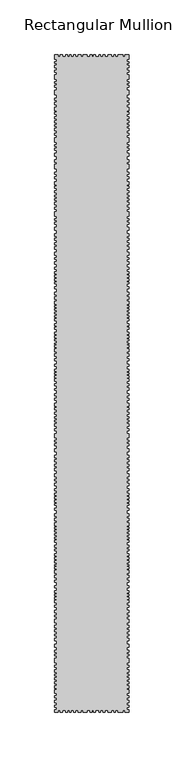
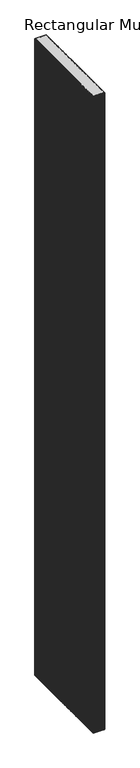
"""IFC4 building model written with IfcOpenShell, lengths in millimetres: member geometry, Rectangular Mullion : DucoSun Cubic Design louvre 600."""

from ifc_helpers import new_model, si_unit, frame, origin, place, context, project, spatial, polyline, outline, extrude, source, transform, mapped, element, save


def rectangular_mullion_efde3910(model_context):
    return source(origin(), model_context, "Body", "SweptSolid", [
        extrude(outline(polyline([(0.0, -597.3782451), (0.0, -600.0), (-3.5455586, -600.0), (-3.5455586, -598.0), (-5.372058, -598.0), (-5.372058, -600.0), (-10.0157006, -600.0), (-10.0157006, -598.0), (-12.1827337, -598.0), (-12.1827337, -600.0), (-13.6996569, -600.0), (-13.6996569, -598.0), (-16.0524358, -598.0), (-16.0524358, -600.0), (-19.1172399, -600.0), (-19.1172399, -598.0), (-21.9034254, -598.0), (-21.9034254, -600.0), (-23.6060943, -600.0), (-23.6060943, -598.0), (-25.9898308, -598.0), (-25.9898308, -600.0), (-27.4757964, -600.0), (-27.4757964, -598.0), (-30.5115322, -598.0), (-30.5115322, -600.0), (-32.2905711, -600.0), (-32.2905711, -598.0), (-34.0, -598.0), (-34.0, -600.0), (-35.8486488, -600.0), (-35.8486488, -598.0), (-38.2128978, -598.0), (-38.2128978, -600.0), (-41.9816511, -600.0), (-41.9816511, -598.0), (-44.0415908, -598.0), (-44.0415908, -600.0), (-46.7335575, -600.0), (-46.7335575, -598.0), (-49.0041729, -598.0), (-49.0041729, -600.0), (-50.8768453, -600.0), (-50.8768453, -598.0), (-52.9367851, -598.0), (-52.9367851, -600.0), (-54.2710642, -600.0), (-54.2710642, -598.0), (-56.3075955, -598.0), (-56.3075955, -600.0), (-57.8993671, -600.0), (-57.8993671, -598.0), (-60.9658683, -598.0), (-60.9658683, -600.0), (-62.9321744, -600.0), (-62.9321744, -598.0), (-64.8750721, -598.0), (-64.8750721, -600.0), (-68.0, -600.0), (-68.0, -597.3782451), (-66.0, -597.3782451), (-66.0, -595.4241521), (-68.0, -595.4241521), (-68.0, -593.6532553), (-66.0, -593.6532553), (-66.0, -590.9460223), (-68.0, -590.9460223), (-68.0, -588.9105087), (-66.0, -588.9105087), (-66.0, -586.7121541), (-68.0, -586.7121541), (-68.0, -585.0023227), (-66.0, -585.0023227), (-66.0, -582.3561551), (-68.0, -582.3561551), (-68.0, -579.3843053), (-66.0, -579.3843053), (-66.0, -577.8917893), (-68.0, -577.8917893), (-68.0, -575.8425117), (-66.0, -575.8425117), (-66.0, -573.8680636), (-68.0, -573.8680636), (-68.0, -572.1582322), (-66.0, -572.1582322), (-66.0, -570.0820083), (-68.0, -570.0820083), (-68.0, -568.3111116), (-66.0, -568.3111116), (-66.0, -566.4995045), (-68.0, -566.4995045), (-68.0, -565.0713495), (-66.0, -565.0713495), (-66.0, -563.4577392), (-68.0, -563.4577392), (-68.0, -561.0328231), (-66.0, -561.0328231), (-66.0, -558.5725067), (-68.0, -558.5725067), (-68.0, -557.0325964), (-66.0, -557.0325964), (-66.0, -554.5014796), (-68.0, -554.5014796), (-68.0, -550.4127524), (-66.0, -550.4127524), (-66.0, -548.4126391), (-68.0, -548.4126391), (-68.0, -546.8373286), (-66.0, -546.8373286), (-66.0, -544.9965163), (-68.0, -544.9965163), (-68.0, -543.3504053), (-66.0, -543.3504053), (-66.0, -540.3767855), (-68.0, -540.3767855), (-68.0, -537.9545244), (-66.0, -537.9545244), (-66.0, -534.5552168), (-68.0, -534.5552168), (-68.0, -532.5197032), (-66.0, -532.5197032), (-66.0, -530.239928), (-68.0, -530.239928), (-68.0, -528.6929377), (-66.0, -528.6929377), (-66.0, -526.4335177), (-68.0, -526.4335177), (-68.0, -524.5608452), (-66.0, -524.5608452), (-66.0, -522.6271073), (-68.0, -522.6271073), (-68.0, -520.5508835), (-66.0, -520.5508835), (-66.0, -518.0064916), (-68.0, -518.0064916), (-68.0, -514.9328661), (-66.0, -514.9328661), (-66.0, -512.9177077), (-68.0, -512.9177077), (-68.0, -511.4114277), (-66.0, -511.4114277), (-66.0, -508.9688114), (-68.0, -508.9688114), (-68.0, -506.7118273), (-66.0, -506.7118273), (-66.0, -503.8852623), (-68.0, -503.8852623), (-68.0, -502.4316003), (-66.0, -502.4316003), (-66.0, -499.9011516), (-68.0, -499.9011516), (-68.0, -497.8552569), (-66.0, -497.8552569), (-66.0, -496.6169522), (-68.0, -496.6169522), (-68.0, -495.0825312), (-66.0, -495.0825312), (-66.0, -493.4673512), (-68.0, -493.4673512), (-68.0, -492.0675286), (-66.0, -492.0675286), (-66.0, -490.5869469), (-68.0, -490.5869469), (-68.0, -489.1602046), (-66.0, -489.1602046), (-66.0, -486.3310055), (-68.0, -486.3310055), (-68.0, -484.2608252), (-66.0, -484.2608252), (-66.0, -481.1919832), (-68.0, -481.1919832), (-68.0, -479.2537672), (-66.0, -479.2537672), (-66.0, -476.9360418), (-68.0, -476.9360418), (-68.0, -475.0004598), (-66.0, -475.0004598), (-66.0, -472.9007258), (-68.0, -472.9007258), (-68.0, -470.1010805), (-66.0, -470.1010805), (-66.0, -468.8089365), (-68.0, -468.8089365), (-68.0, -467.3014351), (-66.0, -467.3014351), (-66.0, -466.0362108), (-68.0, -466.0362108), (-68.0, -465.0401831), (-66.0, -465.0401831), (-66.0, -463.2096458), (-68.0, -463.2096458), (-68.0, -461.6483051), (-66.0, -461.6483051), (-66.0, -460.1408038), (-68.0, -460.1408038), (-68.0, -458.6063828), (-66.0, -458.6063828), (-66.0, -457.0719618), (-68.0, -457.0719618), (-68.0, -455.0799064), (-66.0, -455.0799064), (-66.0, -452.3762692), (-68.0, -452.3762692), (-68.0, -450.8903036), (-66.0, -450.8903036), (-66.0, -449.1257194), (-68.0, -449.1257194), (-68.0, -447.6087962), (-66.0, -447.6087962), (-66.0, -444.8535683), (-68.0, -444.8535683), (-68.0, -442.7484504), (-66.0, -442.7484504), (-66.0, -441.4172729), (-68.0, -441.4172729), (-68.0, -439.9622649), (-66.0, -439.9622649), (-66.0, -438.3524688), (-68.0, -438.3524688), (-68.0, -436.8355456), (-66.0, -436.8355456), (-66.0, -435.1947919), (-68.0, -435.1947919), (-68.0, -433.9255296), (-66.0, -433.9255296), (-66.0, -432.5014792), (-68.0, -432.5014792), (-68.0, -431.1083865), (-66.0, -431.1083865), (-66.0, -429.6843361), (-68.0, -429.6843361), (-68.0, -427.0529387), (-66.0, -427.0529387), (-66.0, -424.9787784), (-68.0, -424.9787784), (-68.0, -423.0284485), (-66.0, -423.0284485), (-66.0, -420.7995001), (-68.0, -420.7995001), (-68.0, -418.8182126), (-66.0, -418.8182126), (-66.0, -415.6914933), (-68.0, -415.6914933), (-68.0, -413.4935025), (-66.0, -413.4935025), (-66.0, -410.954978), (-68.0, -410.954978), (-68.0, -409.4070971), (-66.0, -409.4070971), (-66.0, -408.1378348), (-68.0, -408.1378348), (-68.0, -406.4970812), (-66.0, -406.4970812), (-66.0, -404.8253698), (-68.0, -404.8253698), (-68.0, -403.3394042), (-66.0, -403.3394042), (-66.0, -402.0391843), (-68.0, -402.0391843), (-68.0, -400.0578969), (-66.0, -400.0578969), (-66.0, -397.6741604), (-68.0, -397.6741604), (-68.0, -396.0953219), (-66.0, -396.0953219), (-66.0, -393.3091364), (-68.0, -393.3091364), (-68.0, -391.0182728), (-66.0, -391.0182728), (-66.0, -388.572621), (-68.0, -388.572621), (-68.0, -387.1485707), (-66.0, -387.1485707), (-66.0, -385.0124951), (-68.0, -385.0124951), (-68.0, -382.1643944), (-66.0, -382.1643944), (-66.0, -379.3782089), (-68.0, -379.3782089), (-68.0, -377.427879), (-66.0, -377.427879), (-66.0, -375.4156339), (-68.0, -375.4156339), (-68.0, -373.6510498), (-66.0, -373.6510498), (-66.0, -371.1744404), (-68.0, -371.1744404), (-68.0, -369.6884748), (-66.0, -369.6884748), (-66.0, -367.5523993), (-68.0, -367.5523993), (-68.0, -365.4163237), (-66.0, -365.4163237), (-66.0, -362.1967316), (-68.0, -362.1967316), (-68.0, -359.5343765), (-66.0, -359.5343765), (-66.0, -356.7791486), (-68.0, -356.7791486), (-68.0, -355.0764797), (-66.0, -355.0764797), (-66.0, -352.9404041), (-68.0, -352.9404041), (-68.0, -351.6092266), (-66.0, -351.6092266), (-66.0, -349.5660239), (-68.0, -349.5660239), (-68.0, -345.512038), (-66.0, -345.512038), (-66.0, -343.0030092), (-68.0, -343.0030092), (-68.0, -341.3312979), (-66.0, -341.3312979), (-66.0, -339.0404342), (-68.0, -339.0404342), (-68.0, -336.5638249), (-66.0, -336.5638249), (-66.0, -335.015944), (-68.0, -335.015944), (-68.0, -333.5609361), (-66.0, -333.5609361), (-66.0, -331.5796486), (-68.0, -331.5796486), (-68.0, -330.0627254), (-66.0, -330.0627254), (-66.0, -327.8337769), (-68.0, -327.8337769), (-68.0, -326.1620656), (-66.0, -326.1620656), (-66.0, -324.0259901), (-68.0, -324.0259901), (-68.0, -322.0756602), (-66.0, -322.0756602), (-66.0, -320.6516099), (-68.0, -320.6516099), (-68.0, -317.7415939), (-66.0, -317.7415939), (-66.0, -315.2030693), (-68.0, -315.2030693), (-68.0, -313.1908242), (-66.0, -313.1908242), (-66.0, -311.2404944), (-68.0, -311.2404944), (-68.0, -309.1353764), (-66.0, -309.1353764), (-66.0, -306.2563181), (-68.0, -306.2563181), (-68.0, -304.6155644), (-66.0, -304.6155644), (-66.0, -301.7889994), (-68.0, -301.7889994), (-68.0, -300.3353374), (-66.0, -300.3353374), (-66.0, -297.8048887), (-68.0, -297.8048887), (-68.0, -295.758994), (-66.0, -295.758994), (-66.0, -294.5206893), (-68.0, -294.5206893), (-68.0, -292.9862683), (-66.0, -292.9862683), (-66.0, -291.3710883), (-68.0, -291.3710883), (-68.0, -289.9712657), (-66.0, -289.9712657), (-66.0, -288.490684), (-68.0, -288.490684), (-68.0, -287.0639417), (-66.0, -287.0639417), (-66.0, -284.2347426), (-68.0, -284.2347426), (-68.0, -282.1645623), (-66.0, -282.1645623), (-66.0, -279.0957203), (-68.0, -279.0957203), (-68.0, -277.1575043), (-66.0, -277.1575043), (-66.0, -274.8397789), (-68.0, -274.8397789), (-68.0, -272.9041969), (-66.0, -272.9041969), (-66.0, -270.8044629), (-68.0, -270.8044629), (-68.0, -268.0048176), (-66.0, -268.0048176), (-66.0, -266.7126736), (-68.0, -266.7126736), (-68.0, -265.2051722), (-66.0, -265.2051722), (-66.0, -263.9399479), (-68.0, -263.9399479), (-68.0, -262.9439202), (-66.0, -262.9439202), (-66.0, -261.1133829), (-68.0, -261.1133829), (-68.0, -259.5520422), (-66.0, -259.5520422), (-66.0, -258.0445409), (-68.0, -258.0445409), (-68.0, -256.5101199), (-66.0, -256.5101199), (-66.0, -254.9756989), (-68.0, -254.9756989), (-68.0, -252.9836435), (-66.0, -252.9836435), (-66.0, -250.2800063), (-68.0, -250.2800063), (-68.0, -248.7940407), (-66.0, -248.7940407), (-66.0, -247.0294565), (-68.0, -247.0294565), (-68.0, -245.5125333), (-66.0, -245.5125333), (-66.0, -242.7573054), (-68.0, -242.7573054), (-68.0, -240.6521875), (-66.0, -240.6521875), (-66.0, -239.32101), (-68.0, -239.32101), (-68.0, -237.866002), (-66.0, -237.866002), (-66.0, -236.2562059), (-68.0, -236.2562059), (-68.0, -234.7392827), (-66.0, -234.7392827), (-66.0, -233.098529), (-68.0, -233.098529), (-68.0, -231.8292667), (-66.0, -231.8292667), (-66.0, -230.4052163), (-68.0, -230.4052163), (-68.0, -229.0121236), (-66.0, -229.0121236), (-66.0, -227.5880732), (-68.0, -227.5880732), (-68.0, -224.9566758), (-66.0, -224.9566758), (-66.0, -222.8825155), (-68.0, -222.8825155), (-68.0, -220.9321856), (-66.0, -220.9321856), (-66.0, -218.7032372), (-68.0, -218.7032372), (-68.0, -216.7219497), (-66.0, -216.7219497), (-66.0, -213.5952304), (-68.0, -213.5952304), (-68.0, -211.3972396), (-66.0, -211.3972396), (-66.0, -208.8587151), (-68.0, -208.8587151), (-68.0, -207.3108342), (-66.0, -207.3108342), (-66.0, -206.0415719), (-68.0, -206.0415719), (-68.0, -204.4008183), (-66.0, -204.4008183), (-66.0, -202.7291069), (-68.0, -202.7291069), (-68.0, -201.2431413), (-66.0, -201.2431413), (-66.0, -199.9429214), (-68.0, -199.9429214), (-68.0, -197.961634), (-66.0, -197.961634), (-66.0, -195.5778975), (-68.0, -195.5778975), (-68.0, -193.999059), (-66.0, -193.999059), (-66.0, -191.2128735), (-68.0, -191.2128735), (-68.0, -188.9220099), (-66.0, -188.9220099), (-66.0, -186.4763581), (-68.0, -186.4763581), (-68.0, -185.0523078), (-66.0, -185.0523078), (-66.0, -182.9162322), (-68.0, -182.9162322), (-68.0, -180.0681315), (-66.0, -180.0681315), (-66.0, -177.281946), (-68.0, -177.281946), (-68.0, -175.3316161), (-66.0, -175.3316161), (-66.0, -173.319371), (-68.0, -173.319371), (-68.0, -171.5547869), (-66.0, -171.5547869), (-66.0, -169.0781775), (-68.0, -169.0781775), (-68.0, -167.5922119), (-66.0, -167.5922119), (-66.0, -165.4561364), (-68.0, -165.4561364), (-68.0, -163.3200608), (-66.0, -163.3200608), (-66.0, -160.1004687), (-68.0, -160.1004687), (-68.0, -157.4381136), (-66.0, -157.4381136), (-66.0, -154.6828857), (-68.0, -154.6828857), (-68.0, -152.9802168), (-66.0, -152.9802168), (-66.0, -150.8441412), (-68.0, -150.8441412), (-68.0, -149.5129637), (-66.0, -149.5129637), (-66.0, -147.469761), (-68.0, -147.469761), (-68.0, -143.4157751), (-66.0, -143.4157751), (-66.0, -140.9067463), (-68.0, -140.9067463), (-68.0, -139.235035), (-66.0, -139.235035), (-66.0, -136.9441713), (-68.0, -136.9441713), (-68.0, -134.467562), (-66.0, -134.467562), (-66.0, -132.9196811), (-68.0, -132.9196811), (-68.0, -131.4646731), (-66.0, -131.4646731), (-66.0, -129.4833857), (-68.0, -129.4833857), (-68.0, -127.9664625), (-66.0, -127.9664625), (-66.0, -125.737514), (-68.0, -125.737514), (-68.0, -124.0658027), (-66.0, -124.0658027), (-66.0, -121.9297272), (-68.0, -121.9297272), (-68.0, -119.9793973), (-66.0, -119.9793973), (-66.0, -118.555347), (-68.0, -118.555347), (-68.0, -115.645331), (-66.0, -115.645331), (-66.0, -113.1068064), (-68.0, -113.1068064), (-68.0, -111.0945613), (-66.0, -111.0945613), (-66.0, -109.1442315), (-68.0, -109.1442315), (-68.0, -107.0391135), (-66.0, -107.0391135), (-66.0, -104.0), (-68.0, -104.0), (-68.0, -100.0), (-66.0, -100.0), (-66.0, -97.8639244), (-68.0, -97.8639244), (-68.0, -95.7278489), (-66.0, -95.7278489), (-66.0, -92.5082567), (-68.0, -92.5082567), (-68.0, -89.8459017), (-66.0, -89.8459017), (-66.0, -87.0906738), (-68.0, -87.0906738), (-68.0, -85.3880049), (-66.0, -85.3880049), (-66.0, -83.2519293), (-68.0, -83.2519293), (-68.0, -81.9207518), (-66.0, -81.9207518), (-66.0, -79.8775491), (-68.0, -79.8775491), (-68.0, -75.8235632), (-66.0, -75.8235632), (-66.0, -73.3145343), (-68.0, -73.3145343), (-68.0, -71.642823), (-66.0, -71.642823), (-66.0, -69.3519594), (-68.0, -69.3519594), (-68.0, -66.8753501), (-66.0, -66.8753501), (-66.0, -65.3274692), (-68.0, -65.3274692), (-68.0, -63.8724612), (-66.0, -63.8724612), (-66.0, -61.8911738), (-68.0, -61.8911738), (-68.0, -60.3742505), (-66.0, -60.3742505), (-66.0, -58.1453021), (-68.0, -58.1453021), (-68.0, -56.4735908), (-66.0, -56.4735908), (-66.0, -54.3375153), (-68.0, -54.3375153), (-68.0, -52.3871854), (-66.0, -52.3871854), (-66.0, -50.963135), (-68.0, -50.963135), (-68.0, -48.0531191), (-66.0, -48.0531191), (-66.0, -45.5145945), (-68.0, -45.5145945), (-68.0, -43.5023494), (-66.0, -43.5023494), (-66.0, -41.5520195), (-68.0, -41.5520195), (-68.0, -39.4469016), (-66.0, -39.4469016), (-66.0, -36.4077881), (-68.0, -36.4077881), (-68.0, -32.4077881), (-66.0, -32.4077881), (-66.0, -29.6525602), (-68.0, -29.6525602), (-68.0, -27.9498913), (-66.0, -27.9498913), (-66.0, -25.8138157), (-68.0, -25.8138157), (-68.0, -24.4826382), (-66.0, -24.4826382), (-66.0, -22.4394355), (-68.0, -22.4394355), (-68.0, -18.3854496), (-66.0, -18.3854496), (-66.0, -15.8764207), (-68.0, -15.8764207), (-68.0, -14.2047094), (-66.0, -14.2047094), (-66.0, -11.9138458), (-68.0, -11.9138458), (-68.0, -9.4372364), (-66.0, -9.4372364), (-66.0, -7.8893556), (-68.0, -7.8893556), (-68.0, -6.4343476), (-66.0, -6.4343476), (-66.0, -4.0), (-68.0, -4.0), (-68.0, 0.0), (-64.8750721, 0.0), (-64.8750721, -2.0), (-62.9321744, -2.0), (-62.9321744, 0.0), (-60.9658683, 0.0), (-60.9658683, -2.0), (-57.8993671, -2.0), (-57.8993671, 0.0), (-56.3075955, 0.0), (-56.3075955, -2.0), (-54.2710642, -2.0), (-54.2710642, 0.0), (-52.9367851, 0.0), (-52.9367851, -2.0), (-50.8768453, -2.0), (-50.8768453, 0.0), (-49.0041729, 0.0), (-49.0041729, -2.0), (-46.7335575, -2.0), (-46.7335575, 0.0), (-44.0415908, 0.0), (-44.0415908, -2.0), (-41.9816511, -2.0), (-41.9816511, 0.0), (-38.2128978, 0.0), (-38.2128978, -2.0), (-35.8486488, -2.0), (-35.8486488, 0.0), (-34.0, 0.0), (-34.0, -2.0), (-32.2905711, -2.0), (-32.2905711, 0.0), (-30.5115322, 0.0), (-30.5115322, -2.0), (-27.4757964, -2.0), (-27.4757964, 0.0), (-25.9898308, 0.0), (-25.9898308, -2.0), (-23.6060943, -2.0), (-23.6060943, 0.0), (-21.9034254, 0.0), (-21.9034254, -2.0), (-19.1172399, -2.0), (-19.1172399, 0.0), (-16.0524358, 0.0), (-16.0524358, -2.0), (-13.6996569, -2.0), (-13.6996569, 0.0), (-12.1827337, 0.0), (-12.1827337, -2.0), (-10.0157006, -2.0), (-10.0157006, 0.0), (-5.372058, 0.0), (-5.372058, -2.0), (-3.5455586, -2.0), (-3.5455586, 0.0), (0.0, 0.0), (0.0, -4.0), (-2.0, -4.0), (-2.0, -6.4343476), (0.0, -6.4343476), (0.0, -7.8893556), (-2.0, -7.8893556), (-2.0, -9.4372364), (0.0, -9.4372364), (0.0, -11.9138458), (-2.0, -11.9138458), (-2.0, -14.2047094), (0.0, -14.2047094), (0.0, -15.8764207), (-2.0, -15.8764207), (-2.0, -18.3854496), (0.0, -18.3854496), (0.0, -22.4394355), (-2.0, -22.4394355), (-2.0, -24.4826382), (0.0, -24.4826382), (0.0, -25.8138157), (-2.0, -25.8138157), (-2.0, -27.9498913), (0.0, -27.9498913), (0.0, -29.6525602), (-2.0, -29.6525602), (-2.0, -32.4077881), (0.0, -32.4077881), (0.0, -36.4077881), (-2.0, -36.4077881), (-2.0, -39.4469016), (0.0, -39.4469016), (0.0, -41.5520195), (-2.0, -41.5520195), (-2.0, -43.5023494), (0.0, -43.5023494), (0.0, -45.5145945), (-2.0, -45.5145945), (-2.0, -48.0531191), (0.0, -48.0531191), (0.0, -50.963135), (-2.0, -50.963135), (-2.0, -52.3871854), (0.0, -52.3871854), (0.0, -54.3375153), (-2.0, -54.3375153), (-2.0, -56.4735908), (0.0, -56.4735908), (0.0, -58.1453021), (-2.0, -58.1453021), (-2.0, -60.3742505), (0.0, -60.3742505), (0.0, -61.8911738), (-2.0, -61.8911738), (-2.0, -63.8724612), (0.0, -63.8724612), (0.0, -65.3274692), (-2.0, -65.3274692), (-2.0, -66.8753501), (0.0, -66.8753501), (0.0, -69.3519594), (-2.0, -69.3519594), (-2.0, -71.642823), (0.0, -71.642823), (0.0, -73.3145343), (-2.0, -73.3145343), (-2.0, -75.8235632), (0.0, -75.8235632), (0.0, -79.8775491), (-2.0, -79.8775491), (-2.0, -81.9207518), (0.0, -81.9207518), (0.0, -83.2519293), (-2.0, -83.2519293), (-2.0, -85.3880049), (0.0, -85.3880049), (0.0, -87.0906738), (-2.0, -87.0906738), (-2.0, -89.8459017), (0.0, -89.8459017), (0.0, -92.5082567), (-2.0, -92.5082567), (-2.0, -95.7278489), (0.0, -95.7278489), (0.0, -97.8639244), (-2.0, -97.8639244), (-2.0, -100.0), (0.0, -100.0), (0.0, -104.0), (-2.0, -104.0), (-2.0, -107.0391135), (0.0, -107.0391135), (0.0, -109.1442315), (-2.0, -109.1442315), (-2.0, -111.0945613), (0.0, -111.0945613), (0.0, -113.1068064), (-2.0, -113.1068064), (-2.0, -115.645331), (0.0, -115.645331), (0.0, -118.555347), (-2.0, -118.555347), (-2.0, -119.9793973), (0.0, -119.9793973), (0.0, -121.9297272), (-2.0, -121.9297272), (-2.0, -124.0658027), (0.0, -124.0658027), (0.0, -125.737514), (-2.0, -125.737514), (-2.0, -127.9664625), (0.0, -127.9664625), (0.0, -129.4833857), (-2.0, -129.4833857), (-2.0, -131.4646731), (0.0, -131.4646731), (0.0, -132.9196811), (-2.0, -132.9196811), (-2.0, -134.467562), (0.0, -134.467562), (0.0, -136.9441713), (-2.0, -136.9441713), (-2.0, -139.235035), (0.0, -139.235035), (0.0, -140.9067463), (-2.0, -140.9067463), (-2.0, -143.4157751), (0.0, -143.4157751), (0.0, -147.469761), (-2.0, -147.469761), (-2.0, -149.5129637), (0.0, -149.5129637), (0.0, -150.8441412), (-2.0, -150.8441412), (-2.0, -152.9802168), (0.0, -152.9802168), (0.0, -154.6828857), (-2.0, -154.6828857), (-2.0, -157.4381136), (0.0, -157.4381136), (0.0, -160.1004687), (-2.0, -160.1004687), (-2.0, -163.3200608), (0.0, -163.3200608), (0.0, -165.4561364), (-2.0, -165.4561364), (-2.0, -167.5922119), (0.0, -167.5922119), (0.0, -169.0781775), (-2.0, -169.0781775), (-2.0, -171.5547869), (0.0, -171.5547869), (0.0, -173.319371), (-2.0, -173.319371), (-2.0, -175.3316161), (0.0, -175.3316161), (0.0, -177.281946), (-2.0, -177.281946), (-2.0, -180.0681315), (0.0, -180.0681315), (0.0, -182.9162322), (-2.0, -182.9162322), (-2.0, -185.0523078), (0.0, -185.0523078), (0.0, -186.4763581), (-2.0, -186.4763581), (-2.0, -188.9220099), (0.0, -188.9220099), (0.0, -191.2128735), (-2.0, -191.2128735), (-2.0, -193.999059), (0.0, -193.999059), (0.0, -195.5778975), (-2.0, -195.5778975), (-2.0, -197.961634), (0.0, -197.961634), (0.0, -199.9429214), (-2.0, -199.9429214), (-2.0, -201.2431413), (0.0, -201.2431413), (0.0, -202.7291069), (-2.0, -202.7291069), (-2.0, -204.4008183), (0.0, -204.4008183), (0.0, -206.0415719), (-2.0, -206.0415719), (-2.0, -207.3108342), (0.0, -207.3108342), (0.0, -208.8587151), (-2.0, -208.8587151), (-2.0, -211.3972396), (0.0, -211.3972396), (0.0, -213.5952304), (-2.0, -213.5952304), (-2.0, -216.7219497), (0.0, -216.7219497), (0.0, -218.7032372), (-2.0, -218.7032372), (-2.0, -220.9321856), (0.0, -220.9321856), (0.0, -222.8825155), (-2.0, -222.8825155), (-2.0, -224.9566758), (0.0, -224.9566758), (0.0, -227.5880732), (-2.0, -227.5880732), (-2.0, -229.0121236), (0.0, -229.0121236), (0.0, -230.4052163), (-2.0, -230.4052163), (-2.0, -231.8292667), (0.0, -231.8292667), (0.0, -233.098529), (-2.0, -233.098529), (-2.0, -234.7392827), (0.0, -234.7392827), (0.0, -236.2562059), (-2.0, -236.2562059), (-2.0, -237.866002), (0.0, -237.866002), (0.0, -239.32101), (-2.0, -239.32101), (-2.0, -240.6521875), (0.0, -240.6521875), (0.0, -242.7573054), (-2.0, -242.7573054), (-2.0, -245.5125333), (0.0, -245.5125333), (0.0, -247.0294565), (-2.0, -247.0294565), (-2.0, -248.7940407), (0.0, -248.7940407), (0.0, -250.2800063), (-2.0, -250.2800063), (-2.0, -252.9836435), (0.0, -252.9836435), (0.0, -254.9756989), (-2.0, -254.9756989), (-2.0, -256.5101199), (0.0, -256.5101199), (0.0, -258.0445409), (-2.0, -258.0445409), (-2.0, -259.5520422), (0.0, -259.5520422), (0.0, -261.1133829), (-2.0, -261.1133829), (-2.0, -262.9439202), (0.0, -262.9439202), (0.0, -263.9399479), (-2.0, -263.9399479), (-2.0, -265.2051722), (0.0, -265.2051722), (0.0, -266.7126736), (-2.0, -266.7126736), (-2.0, -268.0048176), (0.0, -268.0048176), (0.0, -270.8044629), (-2.0, -270.8044629), (-2.0, -272.9041969), (0.0, -272.9041969), (0.0, -274.8397789), (-2.0, -274.8397789), (-2.0, -277.1575043), (0.0, -277.1575043), (0.0, -279.0957203), (-2.0, -279.0957203), (-2.0, -282.1645623), (0.0, -282.1645623), (0.0, -284.2347426), (-2.0, -284.2347426), (-2.0, -287.0639417), (0.0, -287.0639417), (0.0, -288.490684), (-2.0, -288.490684), (-2.0, -289.9712657), (0.0, -289.9712657), (0.0, -291.3710883), (-2.0, -291.3710883), (-2.0, -292.9862683), (0.0, -292.9862683), (0.0, -294.5206893), (-2.0, -294.5206893), (-2.0, -295.758994), (0.0, -295.758994), (0.0, -297.8048887), (-2.0, -297.8048887), (-2.0, -300.3353374), (0.0, -300.3353374), (0.0, -301.7889994), (-2.0, -301.7889994), (-2.0, -303.7186411), (0.0, -303.7186411), (0.0, -306.2563181), (-2.0, -306.2563181), (-2.0, -309.1353764), (0.0, -309.1353764), (0.0, -311.2404944), (-2.0, -311.2404944), (-2.0, -313.1908242), (0.0, -313.1908242), (0.0, -315.2030693), (-2.0, -315.2030693), (-2.0, -317.7415939), (0.0, -317.7415939), (0.0, -320.6516099), (-2.0, -320.6516099), (-2.0, -322.0756602), (0.0, -322.0756602), (0.0, -324.0259901), (-2.0, -324.0259901), (-2.0, -326.1620656), (0.0, -326.1620656), (0.0, -327.8337769), (-2.0, -327.8337769), (-2.0, -330.0627254), (0.0, -330.0627254), (0.0, -331.5796486), (-2.0, -331.5796486), (-2.0, -333.5609361), (0.0, -333.5609361), (0.0, -335.015944), (-2.0, -335.015944), (-2.0, -336.5638249), (0.0, -336.5638249), (0.0, -339.0404342), (-2.0, -339.0404342), (-2.0, -341.3312979), (0.0, -341.3312979), (0.0, -343.0030092), (-2.0, -343.0030092), (-2.0, -345.512038), (0.0, -345.512038), (0.0, -349.5660239), (-2.0, -349.5660239), (-2.0, -351.6092266), (0.0, -351.6092266), (0.0, -352.9404041), (-2.0, -352.9404041), (-2.0, -355.0764797), (0.0, -355.0764797), (0.0, -356.7791486), (-2.0, -356.7791486), (-2.0, -359.5343765), (0.0, -359.5343765), (0.0, -362.1967316), (-2.0, -362.1967316), (-2.0, -365.4163237), (0.0, -365.4163237), (0.0, -367.5523993), (-2.0, -367.5523993), (-2.0, -369.6884748), (0.0, -369.6884748), (0.0, -371.1744404), (-2.0, -371.1744404), (-2.0, -373.6510498), (0.0, -373.6510498), (0.0, -375.4156339), (-2.0, -375.4156339), (-2.0, -377.427879), (0.0, -377.427879), (0.0, -379.3782089), (-2.0, -379.3782089), (-2.0, -382.1643944), (0.0, -382.1643944), (0.0, -385.0124951), (-2.0, -385.0124951), (-2.0, -387.1485707), (0.0, -387.1485707), (0.0, -388.572621), (-2.0, -388.572621), (-2.0, -391.0182728), (0.0, -391.0182728), (0.0, -393.3091364), (-2.0, -393.3091364), (-2.0, -396.0953219), (0.0, -396.0953219), (0.0, -397.6741604), (-2.0, -397.6741604), (-2.0, -400.0578969), (0.0, -400.0578969), (0.0, -402.0391843), (-2.0, -402.0391843), (-2.0, -403.3394042), (0.0, -403.3394042), (0.0, -404.8253698), (-2.0, -404.8253698), (-2.0, -406.4970812), (0.0, -406.4970812), (0.0, -408.1378348), (-2.0, -408.1378348), (-2.0, -409.4070971), (0.0, -409.4070971), (0.0, -410.954978), (-2.0, -410.954978), (-2.0, -413.4935025), (0.0, -413.4935025), (0.0, -415.6914933), (-2.0, -415.6914933), (-2.0, -418.8182126), (0.0, -418.8182126), (0.0, -420.7995001), (-2.0, -420.7995001), (-2.0, -423.0284485), (0.0, -423.0284485), (0.0, -424.9787784), (-2.0, -424.9787784), (-2.0, -427.0529387), (0.0, -427.0529387), (0.0, -429.6843361), (-2.0, -429.6843361), (-2.0, -431.1083865), (0.0, -431.1083865), (0.0, -432.5014792), (-2.0, -432.5014792), (-2.0, -433.9255296), (0.0, -433.9255296), (0.0, -435.1947919), (-2.0, -435.1947919), (-2.0, -436.8355456), (0.0, -436.8355456), (0.0, -438.3524688), (-2.0, -438.3524688), (-2.0, -439.9622649), (0.0, -439.9622649), (0.0, -441.4172729), (-2.0, -441.4172729), (-2.0, -442.7484504), (0.0, -442.7484504), (0.0, -444.8535683), (-2.0, -444.8535683), (-2.0, -447.6087962), (0.0, -447.6087962), (0.0, -449.1257194), (-2.0, -449.1257194), (-2.0, -450.8903036), (0.0, -450.8903036), (0.0, -452.3762692), (-2.0, -452.3762692), (-2.0, -455.0799064), (0.0, -455.0799064), (0.0, -457.0719618), (-2.0, -457.0719618), (-2.0, -458.6063828), (0.0, -458.6063828), (0.0, -460.1408038), (-2.0, -460.1408038), (-2.0, -461.6483051), (0.0, -461.6483051), (0.0, -463.2096458), (-2.0, -463.2096458), (-2.0, -465.0401831), (0.0, -465.0401831), (0.0, -466.0362108), (-2.0, -466.0362108), (-2.0, -467.3014351), (0.0, -467.3014351), (0.0, -468.8089365), (-2.0, -468.8089365), (-2.0, -470.1010805), (0.0, -470.1010805), (0.0, -472.9007258), (-2.0, -472.9007258), (-2.0, -475.0004598), (0.0, -475.0004598), (0.0, -476.9360418), (-2.0, -476.9360418), (-2.0, -479.2537672), (0.0, -479.2537672), (0.0, -481.1919832), (-2.0, -481.1919832), (-2.0, -484.2608252), (0.0, -484.2608252), (0.0, -486.3310055), (-2.0, -486.3310055), (-2.0, -489.1602046), (0.0, -489.1602046), (0.0, -490.5869469), (-2.0, -490.5869469), (-2.0, -492.0675286), (0.0, -492.0675286), (0.0, -493.4673512), (-2.0, -493.4673512), (-2.0, -495.0825312), (0.0, -495.0825312), (0.0, -496.6169522), (-2.0, -496.6169522), (-2.0, -497.8552569), (0.0, -497.8552569), (0.0, -499.9011516), (-2.0, -499.9011516), (-2.0, -502.4316003), (0.0, -502.4316003), (0.0, -503.8852623), (-2.0, -503.8852623), (-2.0, -506.7118273), (0.0, -506.7118273), (0.0, -508.9688114), (-2.0, -508.9688114), (-2.0, -511.4114277), (0.0, -511.4114277), (0.0, -512.9177077), (-2.0, -512.9177077), (-2.0, -514.9328661), (0.0, -514.9328661), (0.0, -518.0064916), (-2.0, -518.0064916), (-2.0, -520.5508835), (0.0, -520.5508835), (0.0, -522.6271073), (-2.0, -522.6271073), (-2.0, -524.5608452), (0.0, -524.5608452), (0.0, -526.4335177), (-2.0, -526.4335177), (-2.0, -528.6929377), (0.0, -528.6929377), (0.0, -530.239928), (-2.0, -530.239928), (-2.0, -532.5197032), (0.0, -532.5197032), (0.0, -534.5552168), (-2.0, -534.5552168), (-2.0, -537.9545244), (0.0, -537.9545244), (0.0, -540.3767855), (-2.0, -540.3767855), (-2.0, -543.3504053), (0.0, -543.3504053), (0.0, -544.9965163), (-2.0, -544.9965163), (-2.0, -546.8373286), (0.0, -546.8373286), (0.0, -548.4126391), (-2.0, -548.4126391), (-2.0, -550.4127524), (0.0, -550.4127524), (0.0, -554.5014796), (-2.0, -554.5014796), (-2.0, -557.0325964), (0.0, -557.0325964), (0.0, -558.5725067), (-2.0, -558.5725067), (-2.0, -561.0328231), (0.0, -561.0328231), (0.0, -563.4577392), (-2.0, -563.4577392), (-2.0, -565.0713495), (0.0, -565.0713495), (0.0, -566.4995045), (-2.0, -566.4995045), (-2.0, -568.3111116), (0.0, -568.3111116), (0.0, -570.0820083), (-2.0, -570.0820083), (-2.0, -572.1582322), (0.0, -572.1582322), (0.0, -573.8680636), (-2.0, -573.8680636), (-2.0, -575.8425117), (0.0, -575.8425117), (0.0, -577.8917893), (-2.0, -577.8917893), (-2.0, -579.3843053), (0.0, -579.3843053), (0.0, -582.3561551), (-2.0, -582.3561551), (-2.0, -585.0023227), (0.0, -585.0023227), (0.0, -586.7121541), (-2.0, -586.7121541), (-2.0, -588.9105087), (0.0, -588.9105087), (0.0, -590.9460223), (-2.0, -590.9460223), (-2.0, -593.6532553), (0.0, -593.6532553), (0.0, -595.4241521), (-2.0, -595.4241521), (-2.0, -597.3782451), (0.0, -597.3782451)])), frame((0.0, 0.0, -4000.0), z_axis=(0.0, 0.0, 1.0), x_axis=(1.0, 0.0, 0.0)), (0.0, 0.0, 1.0), 4000.0),
    ])


if __name__ == "__main__":
    model = new_model("IFC4")
    model_context = context("Model", 3, world=origin())
    ifc_project = project(units=[si_unit("LENGTHUNIT", "METRE", prefix="MILLI")], contexts=[model_context])
    site = spatial("IfcSite", under=ifc_project)
    building = spatial("IfcBuilding", under=site)
    placement = place(None, origin())
    rectangular_mullion_shape = rectangular_mullion_efde3910(model_context)
    element("IfcMember", 1, ObjectType="Rectangular Mullion : DucoSun Cubic Design louvre 600", at=placement, inside=building, context=model_context, shape_type="MappedRepresentation", body=[
        mapped(rectangular_mullion_shape, transform((0.0, 0.0, 0.0), x_axis=(1.0, 0.0, 0.0), y_axis=(0.0, 1.0, 0.0), z_axis=(0.0, 0.0, 1.0))),
    ])
    save(model, "model.ifc")
